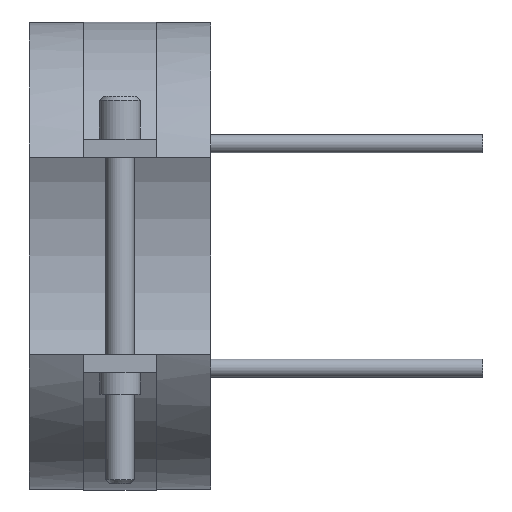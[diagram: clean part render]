
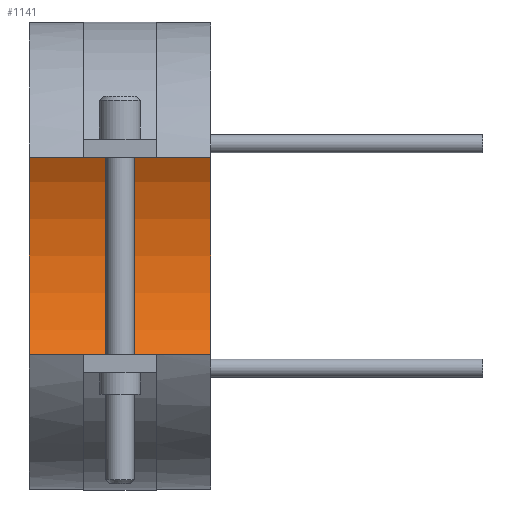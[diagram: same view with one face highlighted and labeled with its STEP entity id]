
A CAD part, front view. The second image highlights one B-rep face of the part: STEP entity #1141.
In plain terms, the highlighted cylindrical face has radius 47.5 mm (diameter 95 mm), a partial arc.
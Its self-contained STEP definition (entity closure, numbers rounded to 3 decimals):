
#822=CARTESIAN_POINT('Vertex',(-20.,0.,-47.5)) ;
#829=CARTESIAN_POINT('Vertex',(20.,0.,-47.5)) ;
#832=CARTESIAN_POINT('Line Origine',(20.,0.,-47.5)) ;
#850=CARTESIAN_POINT('Axis2P3D Location',(-20.,0.,0.)) ;
#854=CARTESIAN_POINT('Vertex',(-20.,0.,47.5)) ;
#911=CARTESIAN_POINT('Vertex',(20.,0.,47.5)) ;
#921=CARTESIAN_POINT('Line Origine',(20.,0.,47.5)) ;
#1012=CARTESIAN_POINT('Axis2P3D Location',(20.,0.,0.)) ;
#1130=CARTESIAN_POINT('Axis2P3D Location',(20.,0.,0.)) ;
#833=DIRECTION('Vector Direction',(1.,0.,0.)) ;
#851=DIRECTION('Axis2P3D Direction',(1.,0.,0.)) ;
#922=DIRECTION('Vector Direction',(1.,0.,0.)) ;
#1013=DIRECTION('Axis2P3D Direction',(1.,0.,0.)) ;
#1131=DIRECTION('Axis2P3D Direction',(1.,0.,-0.)) ;
#1132=DIRECTION('Axis2P3D XDirection',(0.,0.,-1.)) ;
#852=AXIS2_PLACEMENT_3D('Circle Axis2P3D',#850,#851,$) ;
#1014=AXIS2_PLACEMENT_3D('Circle Axis2P3D',#1012,#1013,$) ;
#1133=AXIS2_PLACEMENT_3D('Cylinder Axis2P3D',#1130,#1131,#1132) ;
#1136=ORIENTED_EDGE('',*,*,#1016,.T.) ;
#1137=ORIENTED_EDGE('',*,*,#925,.T.) ;
#1138=ORIENTED_EDGE('',*,*,#856,.F.) ;
#1139=ORIENTED_EDGE('',*,*,#836,.T.) ;
#834=VECTOR('Line Direction',#833,1.) ;
#923=VECTOR('Line Direction',#922,1.) ;
#1141=ADVANCED_FACE('14095040',(#1140),#1134,.F.) ;
#853=CIRCLE('generated circle',#852,47.5) ;
#1015=CIRCLE('generated circle',#1014,47.5) ;
#1134=CYLINDRICAL_SURFACE('generated cylinder',#1133,47.5) ;
#836=EDGE_CURVE('',#823,#830,#835,.T.) ;
#856=EDGE_CURVE('',#823,#855,#853,.T.) ;
#925=EDGE_CURVE('',#912,#855,#924,.F.) ;
#1016=EDGE_CURVE('',#830,#912,#1015,.T.) ;
#1135=EDGE_LOOP('',(#1136,#1137,#1138,#1139)) ;
#1140=FACE_OUTER_BOUND('',#1135,.T.) ;
#835=LINE('Line',#832,#834) ;
#924=LINE('Line',#921,#923) ;
#823=VERTEX_POINT('',#822) ;
#830=VERTEX_POINT('',#829) ;
#855=VERTEX_POINT('',#854) ;
#912=VERTEX_POINT('',#911) ;
